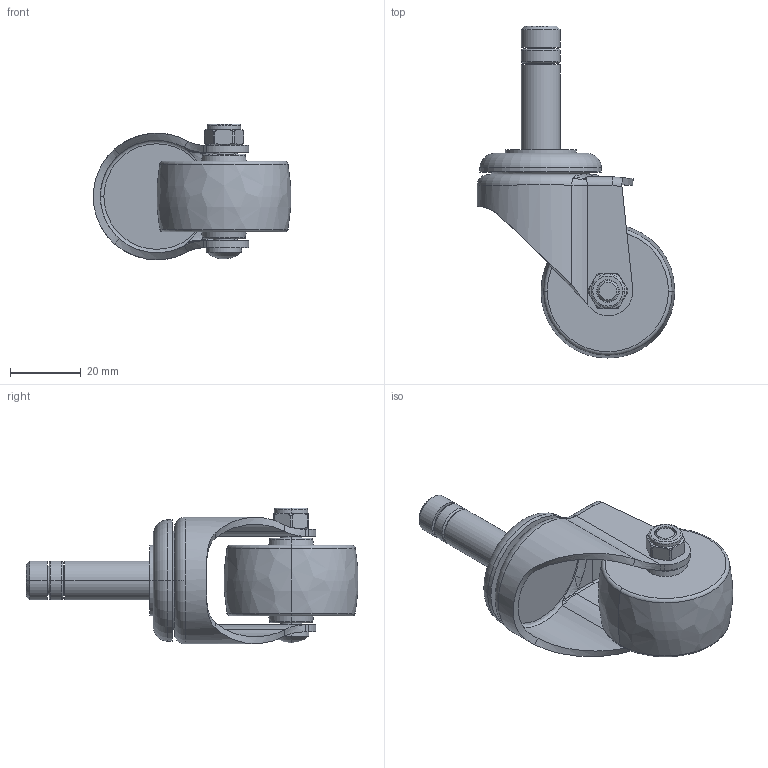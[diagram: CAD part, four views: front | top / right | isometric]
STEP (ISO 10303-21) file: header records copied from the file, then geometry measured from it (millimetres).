
FILE_DESCRIPTION((''),'2;1');
FILE_NAME('261115-2615-83_ASM','2019-12-13T',('L'),(''),'PRO/ENGINEER BY PARAMETRIC TECHNOLOGY CORPORATION, 2010280','PRO/ENGINEER BY PARAMETRIC TECHNOLOGY CORPORATION, 2010280','');
FILE_SCHEMA(('CONFIG_CONTROL_DESIGN'));
Length unit declared in the file: millimetre
Products named in the file (5): 261515; 2615-83; 2610-020; 2610-031; 261115-2615-83_ASM
Assembly tree (4 placements, depth 2):
  261115-2615-83_ASM
    261515
    2615-83
    2610-020
    2610-031
Bounding box: 55.84 x 93.9 x 38.43 mm (x, y, z)
Volume: 38014.3 mm3; surface area: 16502.8 mm2
Topology: 4 solids, 4 shells, 178 faces, 406 edges, 243 vertices
Faces by surface type: cylinder 55, plane 40, torus 32, bspline 27, cone 22, sphere 2
Entity records: 6621 total; most frequent: CARTESIAN_POINT 2607, DIRECTION 846, ORIENTED_EDGE 800, EDGE_CURVE 400, AXIS2_PLACEMENT_3D 366, VERTEX_POINT 243, CIRCLE 206, EDGE_LOOP 199
